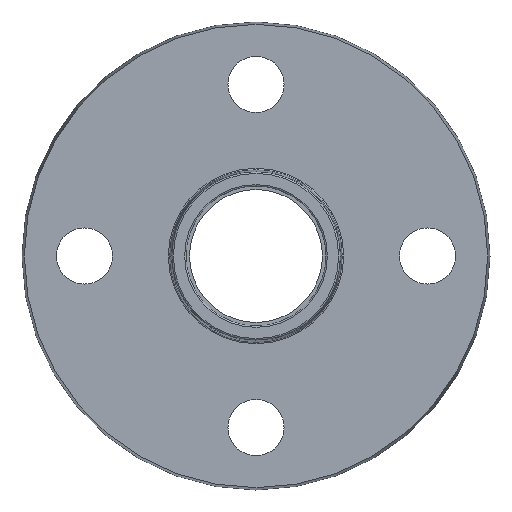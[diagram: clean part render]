
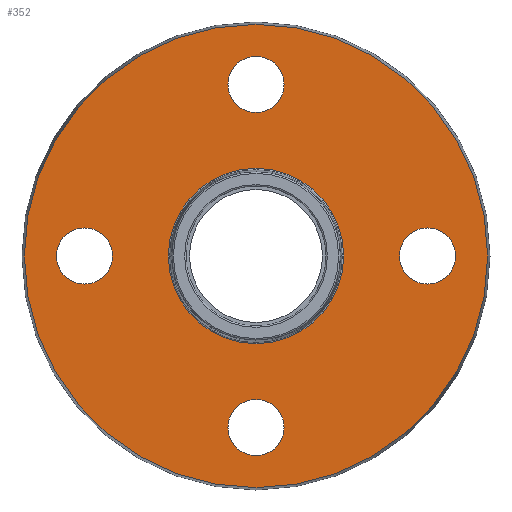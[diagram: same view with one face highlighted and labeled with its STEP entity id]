
A CAD part, left-side view. The second image highlights one B-rep face of the part: STEP entity #352.
In plain terms, the highlighted planar face has unit normal (-1, 0, 0).
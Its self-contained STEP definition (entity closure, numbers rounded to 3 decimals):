
#29=PLANE('',#409);
#56=FACE_BOUND('',#142,.T.);
#57=FACE_BOUND('',#143,.T.);
#58=FACE_BOUND('',#144,.T.);
#59=FACE_BOUND('',#145,.T.);
#60=FACE_BOUND('',#146,.T.);
#88=FACE_OUTER_BOUND('',#141,.T.);
#141=EDGE_LOOP('',(#301));
#142=EDGE_LOOP('',(#302));
#143=EDGE_LOOP('',(#303));
#144=EDGE_LOOP('',(#304));
#145=EDGE_LOOP('',(#305));
#146=EDGE_LOOP('',(#306));
#185=CIRCLE('',#408,28.085);
#186=CIRCLE('',#410,74.25);
#187=CIRCLE('',#411,9.);
#188=CIRCLE('',#412,9.);
#189=CIRCLE('',#413,9.);
#190=CIRCLE('',#414,9.);
#217=VERTEX_POINT('',#617);
#218=VERTEX_POINT('',#620);
#219=VERTEX_POINT('',#622);
#220=VERTEX_POINT('',#624);
#221=VERTEX_POINT('',#626);
#222=VERTEX_POINT('',#628);
#249=EDGE_CURVE('',#217,#217,#185,.T.);
#250=EDGE_CURVE('',#218,#218,#186,.T.);
#251=EDGE_CURVE('',#219,#219,#187,.T.);
#252=EDGE_CURVE('',#220,#220,#188,.T.);
#253=EDGE_CURVE('',#221,#221,#189,.T.);
#254=EDGE_CURVE('',#222,#222,#190,.T.);
#301=ORIENTED_EDGE('',*,*,#250,.T.);
#302=ORIENTED_EDGE('',*,*,#251,.T.);
#303=ORIENTED_EDGE('',*,*,#252,.T.);
#304=ORIENTED_EDGE('',*,*,#253,.T.);
#305=ORIENTED_EDGE('',*,*,#254,.T.);
#306=ORIENTED_EDGE('',*,*,#249,.F.);
#352=ADVANCED_FACE('',(#88,#56,#57,#58,#59,#60),#29,.T.);
#408=AXIS2_PLACEMENT_3D('',#618,#517,#518);
#409=AXIS2_PLACEMENT_3D('',#619,#519,#520);
#410=AXIS2_PLACEMENT_3D('',#621,#521,#522);
#411=AXIS2_PLACEMENT_3D('',#623,#523,#524);
#412=AXIS2_PLACEMENT_3D('',#625,#525,#526);
#413=AXIS2_PLACEMENT_3D('',#627,#527,#528);
#414=AXIS2_PLACEMENT_3D('',#629,#529,#530);
#517=DIRECTION('center_axis',(-1.,0.,0.));
#518=DIRECTION('ref_axis',(0.,1.,0.));
#519=DIRECTION('center_axis',(-1.,0.,0.));
#520=DIRECTION('ref_axis',(0.,0.,1.));
#521=DIRECTION('center_axis',(-1.,0.,0.));
#522=DIRECTION('ref_axis',(0.,0.,1.));
#523=DIRECTION('center_axis',(1.,0.,0.));
#524=DIRECTION('ref_axis',(0.,0.,1.));
#525=DIRECTION('center_axis',(1.,0.,0.));
#526=DIRECTION('ref_axis',(0.,1.,0.));
#527=DIRECTION('center_axis',(1.,0.,0.));
#528=DIRECTION('ref_axis',(0.,0.,-1.));
#529=DIRECTION('center_axis',(1.,0.,0.));
#530=DIRECTION('ref_axis',(0.,-1.,0.));
#617=CARTESIAN_POINT('',(0.,-28.085,0.));
#618=CARTESIAN_POINT('Origin',(0.,0.,0.));
#619=CARTESIAN_POINT('Origin',(0.,-27.657,0.));
#620=CARTESIAN_POINT('',(0.,-74.25,0.));
#621=CARTESIAN_POINT('Origin',(0.,0.,0.));
#622=CARTESIAN_POINT('',(0.,55.,-9.));
#623=CARTESIAN_POINT('Origin',(0.,55.,0.));
#624=CARTESIAN_POINT('',(0.,-9.,-55.));
#625=CARTESIAN_POINT('Origin',(0.,0.,-55.));
#626=CARTESIAN_POINT('',(0.,-55.,9.));
#627=CARTESIAN_POINT('Origin',(0.,-55.,0.));
#628=CARTESIAN_POINT('',(0.,9.,55.));
#629=CARTESIAN_POINT('Origin',(0.,0.,55.));
